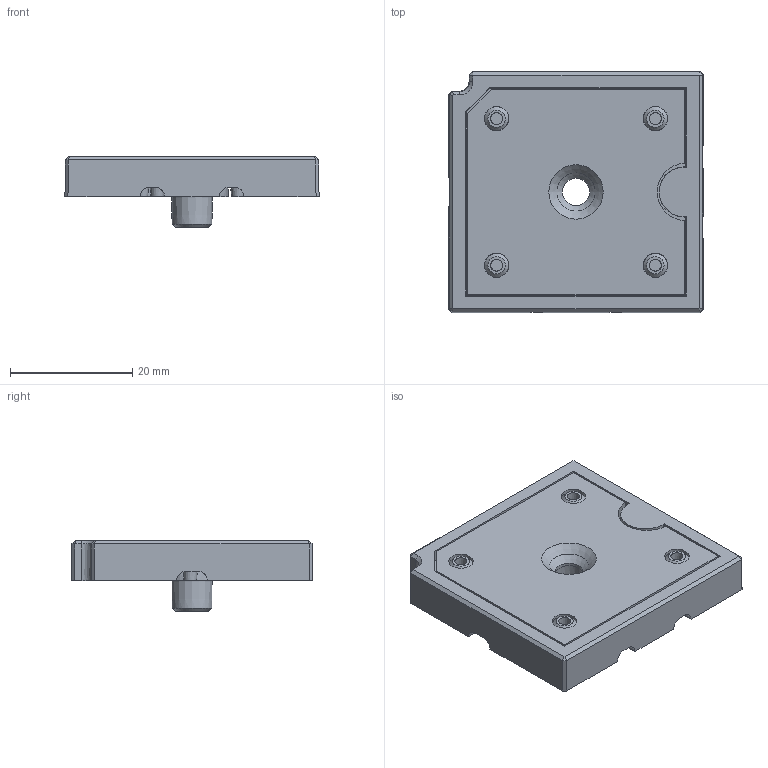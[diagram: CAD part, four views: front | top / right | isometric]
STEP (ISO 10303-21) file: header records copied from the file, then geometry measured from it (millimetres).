
FILE_DESCRIPTION(/* description */ ('Unknown','CAx-IF Rec.Pracs.---Representation and Presentation of Product Manufacturing Information (PMI)---4.0---2014-10-13','CAx-IF Rec.Pracs.---3D Tessellated Geometry---0.4---2014-09-14','2;1'),/* implementation_level */ '2;1');
FILE_NAME(/* name */ 'V23990-K12-T-01.01-27',/* time_stamp */ '2025-10-08T15:09:30+02:00',/* author */ ('Unknown'),/* organization */ ('Unknown'),/* preprocessor_version */ 'ST-DEVELOPER v20',/* originating_system */ 'Solid Edge',/* authorisation */ 'Unknown');
FILE_SCHEMA (('AP242_MANAGED_MODEL_BASED_3D_ENGINEERING_MIM_LF { 1 0 10303 442 1 1 4 }'));
Length unit declared in the file: millimetre
Products named in the file (3): MiniSKiiP 2nd Generation Standard Lid Size 1; 41154810; 41350170
Assembly tree (2 placements, depth 2):
  MiniSKiiP 2nd Generation Standard Lid Size 1
    41154810
    41350170
Bounding box: 41.6 x 39.5 x 11.5 mm (x, y, z)
Volume: 6064.4 mm3; surface area: 8405.1 mm2
Topology: 2 solids, 2 shells, 447 faces, 1027 edges, 619 vertices
Faces by surface type: plane 145, bspline 96, cylinder 89, torus 61, cone 51, sphere 5
Full cylindrical faces by diameter (mm): 3 x10, 4 x9, 5 x2, 12 x1
Entity records: 13339 total; most frequent: CARTESIAN_POINT 4378, ORIENTED_EDGE 1818, DIRECTION 1735, EDGE_CURVE 909, AXIS2_PLACEMENT_3D 721, VERTEX_POINT 588, EDGE_LOOP 577, FACE_BOUND 577
